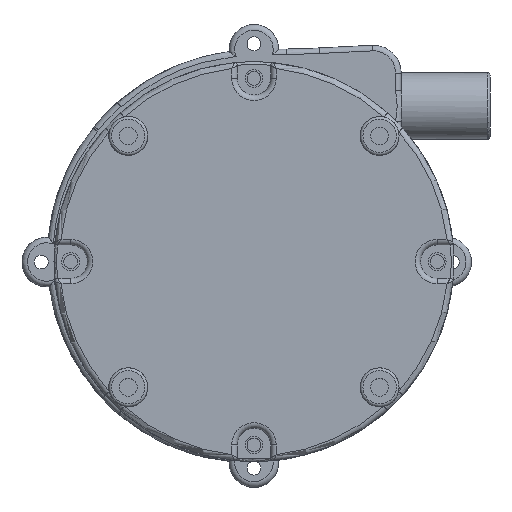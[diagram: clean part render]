
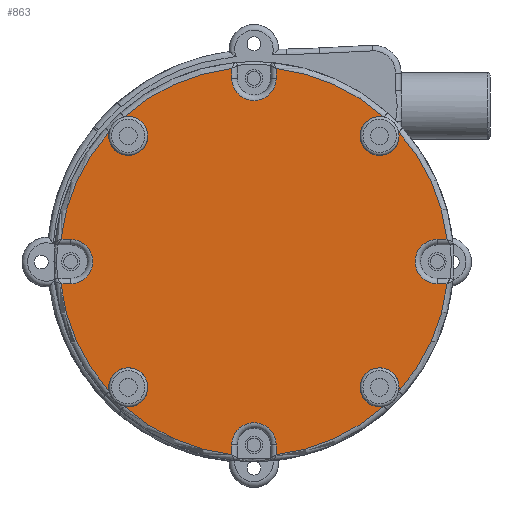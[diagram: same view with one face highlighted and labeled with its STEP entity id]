
A CAD part, top view. The second image highlights one B-rep face of the part: STEP entity #863.
In plain terms, the highlighted planar face has unit normal (0, 0, 1).
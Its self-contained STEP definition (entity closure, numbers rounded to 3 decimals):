
#587=CIRCLE('',#4729,35.);
#588=CIRCLE('',#4730,3.5);
#589=CIRCLE('',#4731,35.);
#590=CIRCLE('',#4732,4.);
#591=CIRCLE('',#4733,35.);
#592=CIRCLE('',#4734,3.5);
#593=CIRCLE('',#4735,35.);
#594=CIRCLE('',#4736,4.);
#595=CIRCLE('',#4737,35.);
#596=CIRCLE('',#4738,3.5);
#597=CIRCLE('',#4739,35.);
#598=CIRCLE('',#4740,4.);
#599=CIRCLE('',#4741,35.);
#600=CIRCLE('',#4742,3.5);
#601=CIRCLE('',#4743,35.);
#602=CIRCLE('',#4744,4.);
#863=ADVANCED_FACE('',(#1187),#987,.F.);
#987=PLANE('',#4745);
#1187=FACE_OUTER_BOUND('',#1539,.T.);
#1539=EDGE_LOOP('',(#2894,#2895,#2896,#2897,#2898,#2899,#2900,#2901,#2902,
#2903,#2904,#2905,#2906,#2907,#2908,#2909,#2910,#2911,#2912,#2913,#2914,
#2915,#2916,#2917));
#1732=LINE('',#10817,#1864);
#1733=LINE('',#10826,#1865);
#1734=LINE('',#10830,#1866);
#1735=LINE('',#10838,#1867);
#1736=LINE('',#10842,#1868);
#1737=LINE('',#10850,#1869);
#1738=LINE('',#10854,#1870);
#1739=LINE('',#10862,#1871);
#1864=VECTOR('',#5664,1.);
#1865=VECTOR('',#5671,1.);
#1866=VECTOR('',#5674,1.);
#1867=VECTOR('',#5681,1.);
#1868=VECTOR('',#5684,1.);
#1869=VECTOR('',#5691,1.);
#1870=VECTOR('',#5694,1.);
#1871=VECTOR('',#5701,1.);
#2894=ORIENTED_EDGE('',*,*,#4032,.T.);
#2895=ORIENTED_EDGE('',*,*,#4033,.T.);
#2896=ORIENTED_EDGE('',*,*,#4034,.T.);
#2897=ORIENTED_EDGE('',*,*,#4035,.T.);
#2898=ORIENTED_EDGE('',*,*,#4036,.T.);
#2899=ORIENTED_EDGE('',*,*,#4037,.T.);
#2900=ORIENTED_EDGE('',*,*,#4038,.T.);
#2901=ORIENTED_EDGE('',*,*,#4039,.T.);
#2902=ORIENTED_EDGE('',*,*,#4040,.T.);
#2903=ORIENTED_EDGE('',*,*,#4041,.T.);
#2904=ORIENTED_EDGE('',*,*,#4042,.T.);
#2905=ORIENTED_EDGE('',*,*,#4043,.T.);
#2906=ORIENTED_EDGE('',*,*,#4044,.T.);
#2907=ORIENTED_EDGE('',*,*,#4045,.T.);
#2908=ORIENTED_EDGE('',*,*,#4046,.T.);
#2909=ORIENTED_EDGE('',*,*,#4047,.T.);
#2910=ORIENTED_EDGE('',*,*,#4048,.T.);
#2911=ORIENTED_EDGE('',*,*,#4049,.T.);
#2912=ORIENTED_EDGE('',*,*,#4050,.T.);
#2913=ORIENTED_EDGE('',*,*,#4051,.T.);
#2914=ORIENTED_EDGE('',*,*,#4052,.T.);
#2915=ORIENTED_EDGE('',*,*,#4053,.T.);
#2916=ORIENTED_EDGE('',*,*,#4054,.T.);
#2917=ORIENTED_EDGE('',*,*,#4055,.T.);
#3459=VERTEX_POINT('',#10818);
#3460=VERTEX_POINT('',#10819);
#3461=VERTEX_POINT('',#10821);
#3462=VERTEX_POINT('',#10823);
#3463=VERTEX_POINT('',#10825);
#3464=VERTEX_POINT('',#10827);
#3465=VERTEX_POINT('',#10829);
#3466=VERTEX_POINT('',#10831);
#3467=VERTEX_POINT('',#10833);
#3468=VERTEX_POINT('',#10835);
#3469=VERTEX_POINT('',#10837);
#3470=VERTEX_POINT('',#10839);
#3471=VERTEX_POINT('',#10841);
#3472=VERTEX_POINT('',#10843);
#3473=VERTEX_POINT('',#10845);
#3474=VERTEX_POINT('',#10847);
#3475=VERTEX_POINT('',#10849);
#3476=VERTEX_POINT('',#10851);
#3477=VERTEX_POINT('',#10853);
#3478=VERTEX_POINT('',#10855);
#3479=VERTEX_POINT('',#10857);
#3480=VERTEX_POINT('',#10859);
#3481=VERTEX_POINT('',#10861);
#3482=VERTEX_POINT('',#10863);
#4032=EDGE_CURVE('',#3459,#3460,#1732,.T.);
#4033=EDGE_CURVE('',#3460,#3461,#587,.T.);
#4034=EDGE_CURVE('',#3461,#3462,#588,.T.);
#4035=EDGE_CURVE('',#3462,#3463,#589,.T.);
#4036=EDGE_CURVE('',#3463,#3464,#1733,.T.);
#4037=EDGE_CURVE('',#3464,#3465,#590,.T.);
#4038=EDGE_CURVE('',#3465,#3466,#1734,.T.);
#4039=EDGE_CURVE('',#3466,#3467,#591,.T.);
#4040=EDGE_CURVE('',#3467,#3468,#592,.T.);
#4041=EDGE_CURVE('',#3468,#3469,#593,.T.);
#4042=EDGE_CURVE('',#3469,#3470,#1735,.T.);
#4043=EDGE_CURVE('',#3470,#3471,#594,.T.);
#4044=EDGE_CURVE('',#3471,#3472,#1736,.T.);
#4045=EDGE_CURVE('',#3472,#3473,#595,.T.);
#4046=EDGE_CURVE('',#3473,#3474,#596,.T.);
#4047=EDGE_CURVE('',#3474,#3475,#597,.T.);
#4048=EDGE_CURVE('',#3475,#3476,#1737,.T.);
#4049=EDGE_CURVE('',#3476,#3477,#598,.T.);
#4050=EDGE_CURVE('',#3477,#3478,#1738,.T.);
#4051=EDGE_CURVE('',#3478,#3479,#599,.T.);
#4052=EDGE_CURVE('',#3479,#3480,#600,.T.);
#4053=EDGE_CURVE('',#3480,#3481,#601,.T.);
#4054=EDGE_CURVE('',#3481,#3482,#1739,.T.);
#4055=EDGE_CURVE('',#3482,#3459,#602,.T.);
#4729=AXIS2_PLACEMENT_3D('',#10820,#5665,#5666);
#4730=AXIS2_PLACEMENT_3D('',#10822,#5667,#5668);
#4731=AXIS2_PLACEMENT_3D('',#10824,#5669,#5670);
#4732=AXIS2_PLACEMENT_3D('',#10828,#5672,#5673);
#4733=AXIS2_PLACEMENT_3D('',#10832,#5675,#5676);
#4734=AXIS2_PLACEMENT_3D('',#10834,#5677,#5678);
#4735=AXIS2_PLACEMENT_3D('',#10836,#5679,#5680);
#4736=AXIS2_PLACEMENT_3D('',#10840,#5682,#5683);
#4737=AXIS2_PLACEMENT_3D('',#10844,#5685,#5686);
#4738=AXIS2_PLACEMENT_3D('',#10846,#5687,#5688);
#4739=AXIS2_PLACEMENT_3D('',#10848,#5689,#5690);
#4740=AXIS2_PLACEMENT_3D('',#10852,#5692,#5693);
#4741=AXIS2_PLACEMENT_3D('',#10856,#5695,#5696);
#4742=AXIS2_PLACEMENT_3D('',#10858,#5697,#5698);
#4743=AXIS2_PLACEMENT_3D('',#10860,#5699,#5700);
#4744=AXIS2_PLACEMENT_3D('',#10864,#5702,#5703);
#4745=AXIS2_PLACEMENT_3D('',#10865,#5704,#5705);
#5664=DIRECTION('',(0.,-1.,0.));
#5665=DIRECTION('',(0.,0.,1.));
#5666=DIRECTION('',(-1.,0.,0.));
#5667=DIRECTION('',(0.,0.,-1.));
#5668=DIRECTION('',(-1.,0.,0.));
#5669=DIRECTION('',(0.,0.,1.));
#5670=DIRECTION('',(-1.,0.,0.));
#5671=DIRECTION('',(-1.,0.,0.));
#5672=DIRECTION('',(0.,0.,-1.));
#5673=DIRECTION('',(-1.,0.,0.));
#5674=DIRECTION('',(1.,0.,0.));
#5675=DIRECTION('',(0.,0.,1.));
#5676=DIRECTION('',(-1.,0.,0.));
#5677=DIRECTION('',(0.,0.,-1.));
#5678=DIRECTION('',(-1.,0.,0.));
#5679=DIRECTION('',(0.,0.,1.));
#5680=DIRECTION('',(-1.,0.,0.));
#5681=DIRECTION('',(0.,-1.,0.));
#5682=DIRECTION('',(0.,0.,-1.));
#5683=DIRECTION('',(-1.,0.,0.));
#5684=DIRECTION('',(0.,1.,0.));
#5685=DIRECTION('',(0.,0.,1.));
#5686=DIRECTION('',(-1.,0.,0.));
#5687=DIRECTION('',(0.,0.,-1.));
#5688=DIRECTION('',(-1.,0.,0.));
#5689=DIRECTION('',(0.,0.,1.));
#5690=DIRECTION('',(-1.,0.,0.));
#5691=DIRECTION('',(1.,0.,0.));
#5692=DIRECTION('',(0.,0.,-1.));
#5693=DIRECTION('',(-1.,0.,0.));
#5694=DIRECTION('',(-1.,0.,0.));
#5695=DIRECTION('',(0.,0.,1.));
#5696=DIRECTION('',(-1.,0.,0.));
#5697=DIRECTION('',(0.,0.,-1.));
#5698=DIRECTION('',(-1.,0.,0.));
#5699=DIRECTION('',(0.,0.,1.));
#5700=DIRECTION('',(-1.,0.,0.));
#5701=DIRECTION('',(0.,1.,0.));
#5702=DIRECTION('',(0.,0.,-1.));
#5703=DIRECTION('',(-1.,0.,0.));
#5704=DIRECTION('',(0.,0.,-1.));
#5705=DIRECTION('',(-1.,0.,0.));
#10817=CARTESIAN_POINT('',(104.,0.,61.941));
#10818=CARTESIAN_POINT('',(104.,-33.,61.941));
#10819=CARTESIAN_POINT('',(104.,-34.771,61.941));
#10820=CARTESIAN_POINT('',(100.,0.,61.941));
#10821=CARTESIAN_POINT('',(123.38,-26.046,61.941));
#10822=CARTESIAN_POINT('',(122.627,-22.627,61.941));
#10823=CARTESIAN_POINT('',(126.046,-23.38,61.941));
#10824=CARTESIAN_POINT('',(100.,0.,61.941));
#10825=CARTESIAN_POINT('',(134.771,-4.,61.941));
#10826=CARTESIAN_POINT('',(100.,-4.,61.941));
#10827=CARTESIAN_POINT('',(133.,-4.,61.941));
#10828=CARTESIAN_POINT('',(133.,0.,61.941));
#10829=CARTESIAN_POINT('',(133.,4.,61.941));
#10830=CARTESIAN_POINT('',(100.,4.,61.941));
#10831=CARTESIAN_POINT('',(134.771,4.,61.941));
#10832=CARTESIAN_POINT('',(100.,0.,61.941));
#10833=CARTESIAN_POINT('',(126.046,23.38,61.941));
#10834=CARTESIAN_POINT('',(122.627,22.627,61.941));
#10835=CARTESIAN_POINT('',(123.38,26.046,61.941));
#10836=CARTESIAN_POINT('',(100.,0.,61.941));
#10837=CARTESIAN_POINT('',(104.,34.771,61.941));
#10838=CARTESIAN_POINT('',(104.,0.,61.941));
#10839=CARTESIAN_POINT('',(104.,33.,61.941));
#10840=CARTESIAN_POINT('',(100.,33.,61.941));
#10841=CARTESIAN_POINT('',(96.,33.,61.941));
#10842=CARTESIAN_POINT('',(96.,0.,61.941));
#10843=CARTESIAN_POINT('',(96.,34.771,61.941));
#10844=CARTESIAN_POINT('',(100.,0.,61.941));
#10845=CARTESIAN_POINT('',(76.62,26.046,61.941));
#10846=CARTESIAN_POINT('',(77.373,22.627,61.941));
#10847=CARTESIAN_POINT('',(73.954,23.38,61.941));
#10848=CARTESIAN_POINT('',(100.,0.,61.941));
#10849=CARTESIAN_POINT('',(65.229,4.,61.941));
#10850=CARTESIAN_POINT('',(100.,4.,61.941));
#10851=CARTESIAN_POINT('',(67.,4.,61.941));
#10852=CARTESIAN_POINT('',(67.,0.,61.941));
#10853=CARTESIAN_POINT('',(67.,-4.,61.941));
#10854=CARTESIAN_POINT('',(100.,-4.,61.941));
#10855=CARTESIAN_POINT('',(65.229,-4.,61.941));
#10856=CARTESIAN_POINT('',(100.,0.,61.941));
#10857=CARTESIAN_POINT('',(73.954,-23.38,61.941));
#10858=CARTESIAN_POINT('',(77.373,-22.627,61.941));
#10859=CARTESIAN_POINT('',(76.62,-26.046,61.941));
#10860=CARTESIAN_POINT('',(100.,0.,61.941));
#10861=CARTESIAN_POINT('',(96.,-34.771,61.941));
#10862=CARTESIAN_POINT('',(96.,0.,61.941));
#10863=CARTESIAN_POINT('',(96.,-33.,61.941));
#10864=CARTESIAN_POINT('',(100.,-33.,61.941));
#10865=CARTESIAN_POINT('',(100.,0.,61.941));
